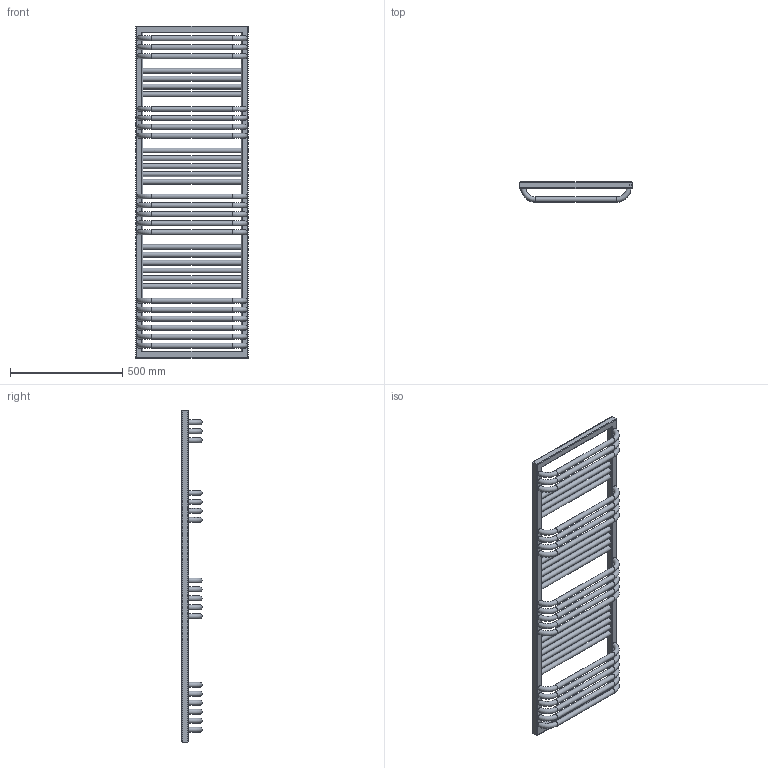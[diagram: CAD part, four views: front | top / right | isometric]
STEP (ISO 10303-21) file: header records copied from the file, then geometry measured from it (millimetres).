
FILE_DESCRIPTION((''),'2;1');
FILE_NAME('Z:\R\G\P\RGPH18 - Grzejnik POC\Work\Inventor\POC 1-6-8 v2.0\Marketing\AutoCad 3D\POC-1480-500-1-6-8.stp','2012-07-12T14:39:18',('KurKa'),(''),'Autodesk Inventor 2012','Autodesk Inventor 2012','');
FILE_SCHEMA(('AUTOMOTIVE_DESIGN { 1 0 10303 214 1 1 1 1 }'));
Length unit declared in the file: millimetre
Products named in the file (1): POC-1480-500-1-6-8
Bounding box: 500 x 90 x 1480 mm (x, y, z)
Volume: 9496857.8 mm3; surface area: 1522381.8 mm2
Topology: 1 solids, 1 shells, 104 faces, 278 edges, 179 vertices
Faces by surface type: cylinder 52, torus 39, plane 13
Full cylindrical faces by diameter (mm): 18.631 x3, 22 x33
Entity records: 4972 total; most frequent: CARTESIAN_POINT 2755, DIRECTION 432, ORIENTED_EDGE 334, EDGE_LOOP 250, AXIS2_PLACEMENT_3D 196, EDGE_CURVE 167, FACE_BOUND 146, VERTEX_POINT 143
